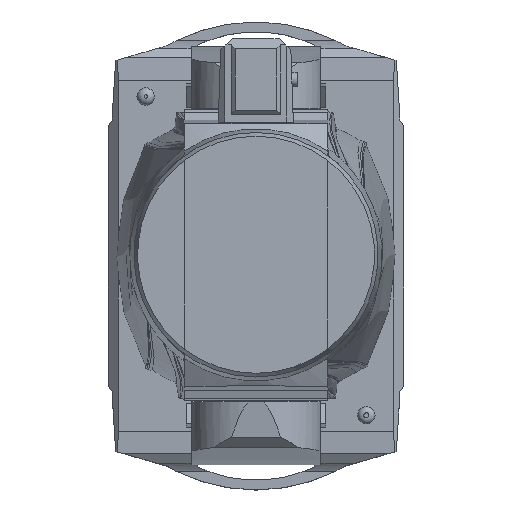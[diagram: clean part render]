
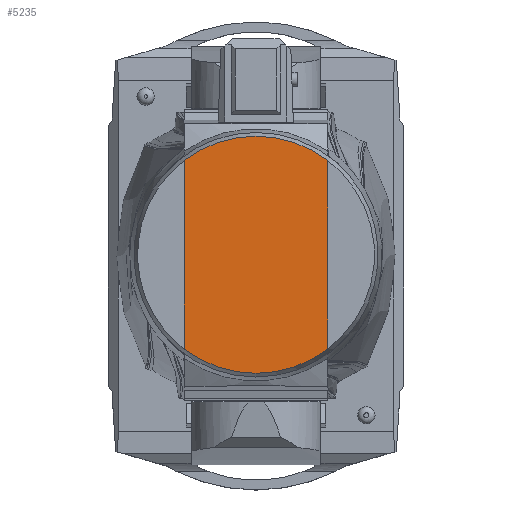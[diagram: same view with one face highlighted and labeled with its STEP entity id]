
A CAD part, top view. The second image highlights one B-rep face of the part: STEP entity #5235.
In plain terms, the highlighted planar face has unit normal (0, 0, 1).
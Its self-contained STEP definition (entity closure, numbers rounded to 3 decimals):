
#194=CIRCLE('',#5622,115.984);
#196=CIRCLE('',#5624,115.984);
#323=PLANE('',#5632);
#874=LINE('',#11152,#1250);
#875=LINE('',#11154,#1251);
#1250=VECTOR('',#6574,1000.);
#1251=VECTOR('',#6577,1000.);
#2651=ORIENTED_EDGE('',*,*,#3563,.T.);
#2652=ORIENTED_EDGE('',*,*,#3567,.F.);
#2653=ORIENTED_EDGE('',*,*,#3561,.T.);
#2654=ORIENTED_EDGE('',*,*,#3566,.T.);
#3561=EDGE_CURVE('',#4135,#4134,#194,.T.);
#3563=EDGE_CURVE('',#4133,#4136,#196,.T.);
#3566=EDGE_CURVE('',#4134,#4133,#874,.T.);
#3567=EDGE_CURVE('',#4135,#4136,#875,.T.);
#4133=VERTEX_POINT('',#11138);
#4134=VERTEX_POINT('',#11139);
#4135=VERTEX_POINT('',#11141);
#4136=VERTEX_POINT('',#11143);
#4564=EDGE_LOOP('',(#2651,#2652,#2653,#2654));
#4886=FACE_BOUND('',#4564,.T.);
#5235=ADVANCED_FACE('',(#4886),#323,.F.);
#5622=AXIS2_PLACEMENT_3D('',#11140,#6554,#6555);
#5624=AXIS2_PLACEMENT_3D('',#11144,#6558,#6559);
#5632=AXIS2_PLACEMENT_3D('',#11153,#6575,#6576);
#6554=DIRECTION('',(0.,0.,1.));
#6555=DIRECTION('',(1.,0.,0.));
#6558=DIRECTION('',(0.,0.,1.));
#6559=DIRECTION('',(1.,0.,0.));
#6574=DIRECTION('',(0.,-1.,0.));
#6575=DIRECTION('',(0.,0.,-1.));
#6576=DIRECTION('',(0.,1.,0.));
#6577=DIRECTION('',(0.,-1.,0.));
#11138=CARTESIAN_POINT('',(-70.,-92.479,423.101));
#11139=CARTESIAN_POINT('',(-70.,92.479,423.101));
#11140=CARTESIAN_POINT('',(0.,0.,423.101));
#11141=CARTESIAN_POINT('',(70.,92.479,423.101));
#11143=CARTESIAN_POINT('',(70.,-92.479,423.101));
#11144=CARTESIAN_POINT('',(0.,0.,423.101));
#11152=CARTESIAN_POINT('',(-70.,115.984,423.101));
#11153=CARTESIAN_POINT('',(70.,115.984,423.101));
#11154=CARTESIAN_POINT('',(70.,115.984,423.101));
